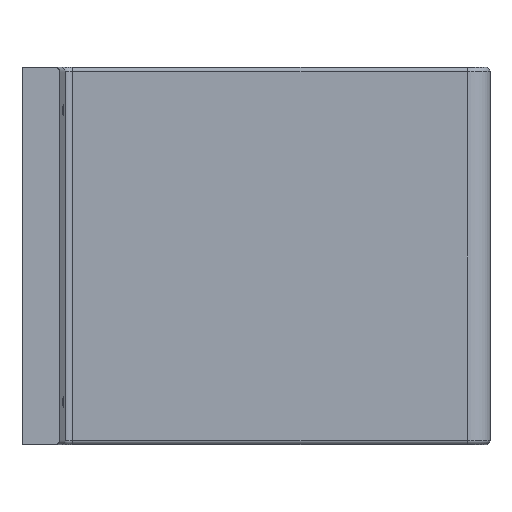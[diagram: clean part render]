
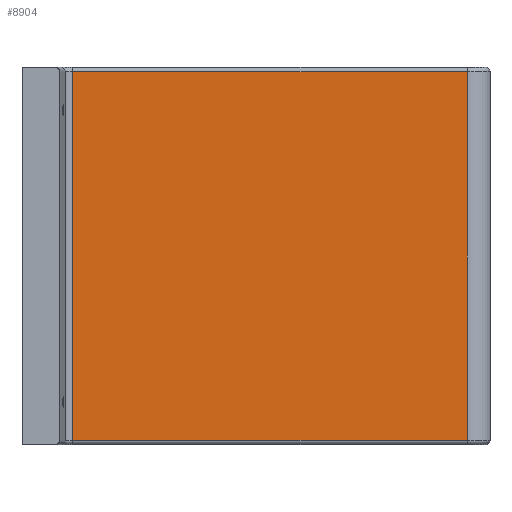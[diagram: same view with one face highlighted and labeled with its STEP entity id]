
A CAD part, left-side view. The second image highlights one B-rep face of the part: STEP entity #8904.
In plain terms, the highlighted planar face has unit normal (-1, 0, 0).
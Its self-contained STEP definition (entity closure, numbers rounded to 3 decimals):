
#1257 = AXIS2_PLACEMENT_3D ( 'NONE', #2441, #10253, #12792 ) ;
#1645 = FACE_OUTER_BOUND ( 'NONE', #12748, .T. ) ;
#2363 = DIRECTION ( 'NONE',  ( 0., -1., 0. ) ) ;
#2441 = CARTESIAN_POINT ( 'NONE',  ( -135., -140., 125. ) ) ;
#2771 = CARTESIAN_POINT ( 'NONE',  ( -135., 121.539, 125. ) ) ;
#3160 = VERTEX_POINT ( 'NONE', #8524 ) ;
#3371 = CARTESIAN_POINT ( 'NONE',  ( -135., -140., -122. ) ) ;
#3894 = VERTEX_POINT ( 'NONE', #3371 ) ;
#3956 = VECTOR ( 'NONE', #2363, 1000. ) ;
#4337 = VERTEX_POINT ( 'NONE', #9304 ) ;
#4379 = VECTOR ( 'NONE', #15518, 1000. ) ;
#5421 = EDGE_CURVE ( 'NONE', #3160, #4337, #8977, .T. ) ;
#5465 = EDGE_CURVE ( 'NONE', #9031, #3160, #10390, .T. ) ;
#6774 = DIRECTION ( 'NONE',  ( 0., 1., 0. ) ) ;
#7778 = CARTESIAN_POINT ( 'NONE',  ( -135., -140., -122. ) ) ;
#8066 = CARTESIAN_POINT ( 'NONE',  ( -135., -140., 122. ) ) ;
#8524 = CARTESIAN_POINT ( 'NONE',  ( -135., 121.539, 122. ) ) ;
#8586 = LINE ( 'NONE', #9039, #14238 ) ;
#8803 = ORIENTED_EDGE ( 'NONE', *, *, #5465, .T. ) ;
#8904 = ADVANCED_FACE ( 'NONE', ( #1645 ), #12853, .F. ) ;
#8977 = LINE ( 'NONE', #2771, #4379 ) ;
#9031 = VERTEX_POINT ( 'NONE', #13024 ) ;
#9039 = CARTESIAN_POINT ( 'NONE',  ( -135., -140., 125. ) ) ;
#9165 = VECTOR ( 'NONE', #6774, 1000. ) ;
#9304 = CARTESIAN_POINT ( 'NONE',  ( -135., 121.539, -122. ) ) ;
#10157 = ORIENTED_EDGE ( 'NONE', *, *, #5421, .T. ) ;
#10253 = DIRECTION ( 'NONE',  ( 1., 0., 0. ) ) ;
#10390 = LINE ( 'NONE', #8066, #9165 ) ;
#11804 = LINE ( 'NONE', #7778, #3956 ) ;
#12623 = ORIENTED_EDGE ( 'NONE', *, *, #16133, .F. ) ;
#12748 = EDGE_LOOP ( 'NONE', ( #12623, #8803, #10157, #14652 ) ) ;
#12792 = DIRECTION ( 'NONE',  ( 0., 1., 0. ) ) ;
#12853 = PLANE ( 'NONE',  #1257 ) ;
#12926 = DIRECTION ( 'NONE',  ( 0., 0., -1. ) ) ;
#13024 = CARTESIAN_POINT ( 'NONE',  ( -135., -140., 122. ) ) ;
#14238 = VECTOR ( 'NONE', #12926, 1000. ) ;
#14652 = ORIENTED_EDGE ( 'NONE', *, *, #16451, .T. ) ;
#15518 = DIRECTION ( 'NONE',  ( 0., 0., -1. ) ) ;
#16133 = EDGE_CURVE ( 'NONE', #9031, #3894, #8586, .T. ) ;
#16451 = EDGE_CURVE ( 'NONE', #4337, #3894, #11804, .T. ) ;
